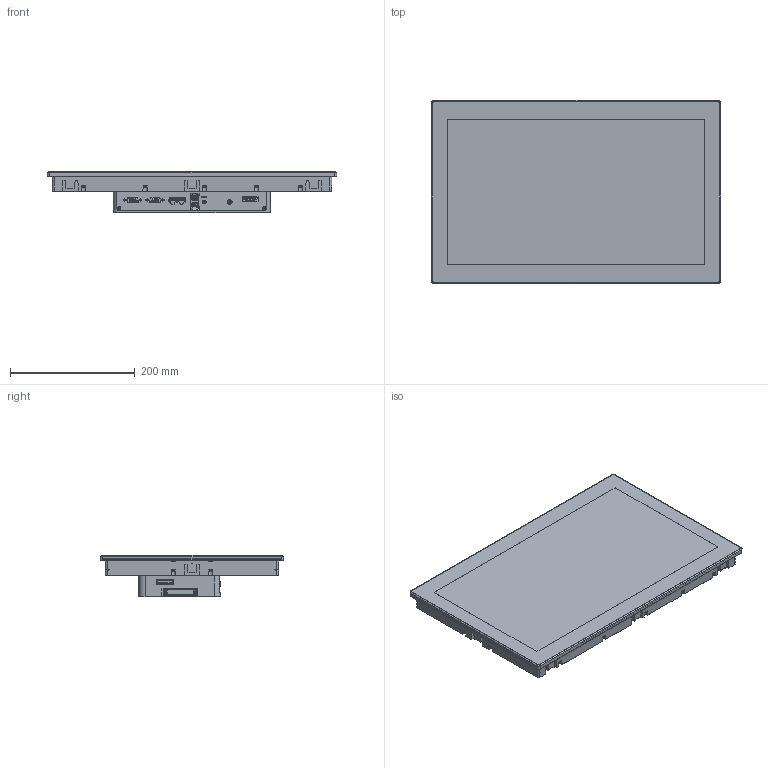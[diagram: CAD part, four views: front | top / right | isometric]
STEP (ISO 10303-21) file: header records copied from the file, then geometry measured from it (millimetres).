
FILE_DESCRIPTION(/* description */ (''),/* implementation_level */ '2;1');
FILE_NAME(/* name */ 'HMI_19W_WXGA_DC_3D-simpl.stp',/* time_stamp */ '2025-10-20T12:44:09+02:00',/* author */ (''),/* organization */ (''),/* preprocessor_version */ 'ST-DEVELOPER v16.7',/* originating_system */ 'SIEMENS PLM Software NX 12.0',/* authorisation */ '');
FILE_SCHEMA (('AP203_CONFIGURATION_CONTROLLED_3D_DESIGN_OF_MECHANICAL_PARTS_AND_ASSEMBLIES_MIM_LF { 1 0 10303 403 2 1 2}'));
Products named in the file (1): HMI_19W_WXGA_DC_3D-simpl_step
Bounding box: 463.6 x 293.6 x 66.28 mm (x, y, z)
Volume: 4912551.5 mm3; surface area: 660849.6 mm2
Topology: 3 solids, 43 shells, 3322 faces, 8894 edges, 5732 vertices
Faces by surface type: plane 1920, cylinder 852, cone 313, bspline 128, torus 74, sphere 35
Full cylindrical faces by diameter (mm): 0.99 x18, 2.5 x4, 2.693 x3, 2.694 x15, 2.8 x2, 2.845 x4, 3 x36, 4 x26, 5.6 x25, 6 x6, 7.08 x4, 8 x1, 8.454 x6, 64.241 x1
Entity records: 121323 total; most frequent: CARTESIAN_POINT 42732, ORIENTED_EDGE 16894, DIRECTION 14696, EDGE_CURVE 8447, VERTEX_POINT 5617, LINE 5394, VECTOR 5394, AXIS2_PLACEMENT_3D 4651
